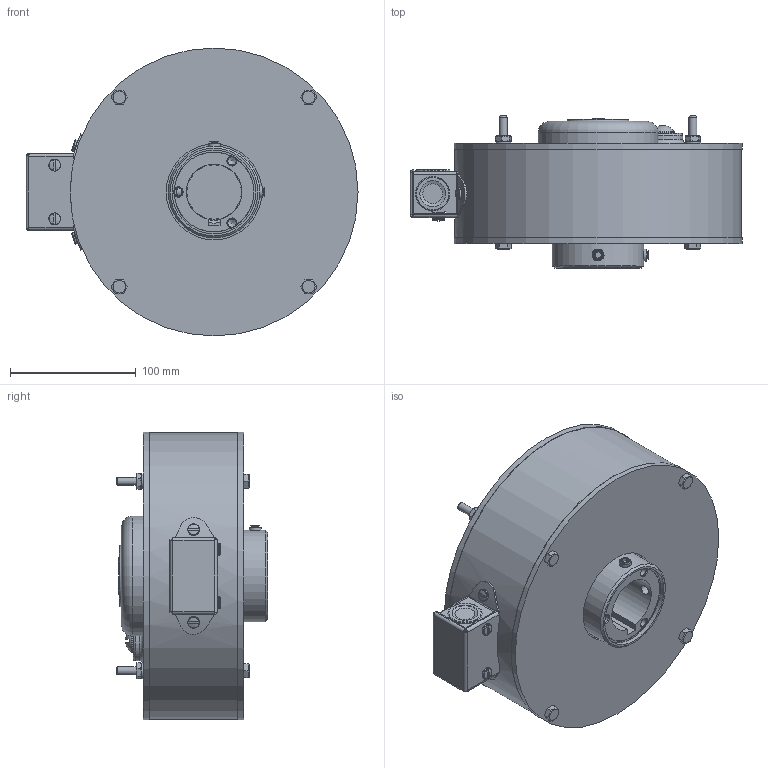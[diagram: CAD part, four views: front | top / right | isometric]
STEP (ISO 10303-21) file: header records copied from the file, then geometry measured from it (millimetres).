
FILE_DESCRIPTION(/* description */ ('STEP AP214'),/* implementation_level */ '2;1');
FILE_NAME(/* name */ '50MB90S_stp.step',/* time_stamp */ '2026-05-13T10:12:05-05:00',/* author */ (''),/* organization */ (''),/* preprocessor_version */ 'ST-DEVELOPER v20.1',/* originating_system */ 'Autodesk Translation Framework v15.8.0.0',/* authorisation */ '');
FILE_SCHEMA (('AUTOMOTIVE_DESIGN { 1 0 10303 214 3 1 1 }'));
Length unit declared in the file: inch
Products named in the file (1): 50MB90S_stp_asm
Bounding box: 264.53 x 121.09 x 229.39 mm (x, y, z)
Volume: 1531161.4 mm3; surface area: 415518.9 mm2
Topology: 4 solids, 7 shells, 760 faces, 1890 edges, 1183 vertices
Faces by surface type: plane 331, cone 175, cylinder 160, torus 54, bspline 30, sphere 10
Full cylindrical faces by diameter (mm): 3.795 x4, 4.039 x4, 4.762 x2, 6.35 x10, 6.528 x3, 7.938 x6, 9.474 x4, 9.525 x2, 15.875 x1, 17.983 x1, 22.225 x3, 31.75 x1, 44.831 x1, 59.218 x1, 59.98 x1, 59.995 x1, 66.675 x1, 73.025 x1, 76.2 x1, 87.312 x2, 94.971 x1, 95.009 x2, 95.25 x1, 109.537 x2, 120.142 x1, 126.492 x1, 158.75 x2, 169.862 x2, 174.625 x1, 192.087 x1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
Entity records: 25746 total; most frequent: CARTESIAN_POINT 7565, DIRECTION 3953, ORIENTED_EDGE 3782, EDGE_CURVE 1891, AXIS2_PLACEMENT_3D 1625, VERTEX_POINT 1191, EDGE_LOOP 870, FACE_OUTER_BOUND 760
